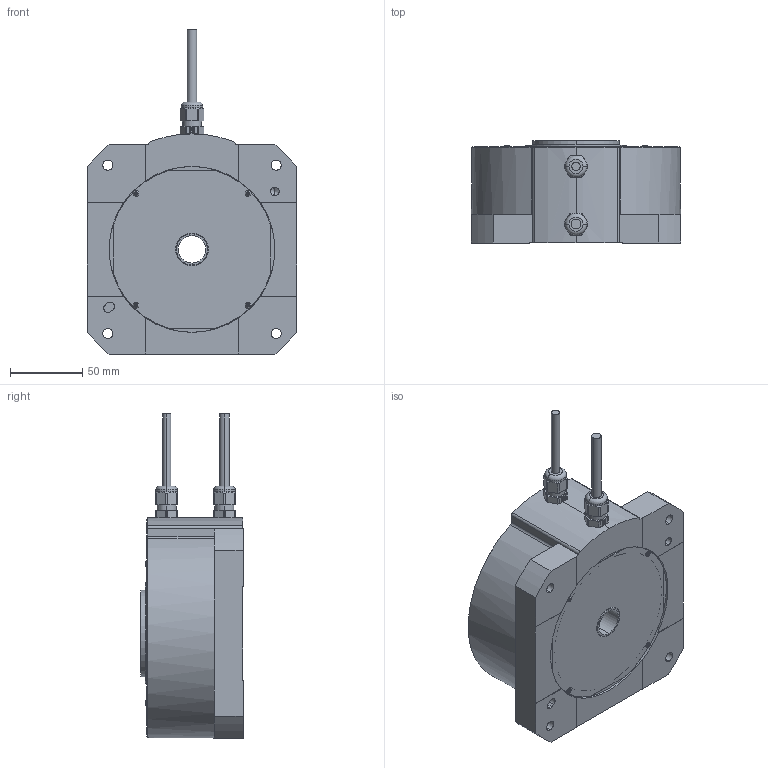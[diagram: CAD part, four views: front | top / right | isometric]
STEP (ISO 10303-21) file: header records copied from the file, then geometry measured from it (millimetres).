
FILE_DESCRIPTION (( 'STEP AP214' ), '1' );
FILE_NAME ('BZA01830.step', '2024-03-27T06:59:15', ( '' ), ( '' ), 'SwSTEP 2.0', 'SolidWorks 2023', '' );
FILE_SCHEMA (( 'AUTOMOTIVE_DESIGN' ));
Length unit declared in the file: millimetre
Products named in the file (1): BZA01830
Bounding box: 145 x 71 x 224.5 mm (x, y, z)
Volume: 454186.4 mm3; surface area: 158739 mm2
Topology: 14 solids, 14 shells, 634 faces, 1691 edges, 1084 vertices
Faces by surface type: cylinder 252, plane 188, cone 95, bspline 69, torus 30
Entity records: 23112 total; most frequent: CARTESIAN_POINT 7776, ORIENTED_EDGE 3270, DIRECTION 2990, EDGE_CURVE 1635, AXIS2_PLACEMENT_3D 1180, VERTEX_POINT 1084, EDGE_LOOP 725, ADVANCED_FACE 634
